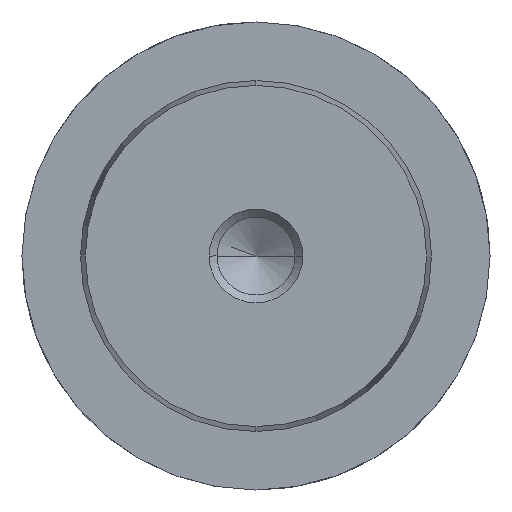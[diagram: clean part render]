
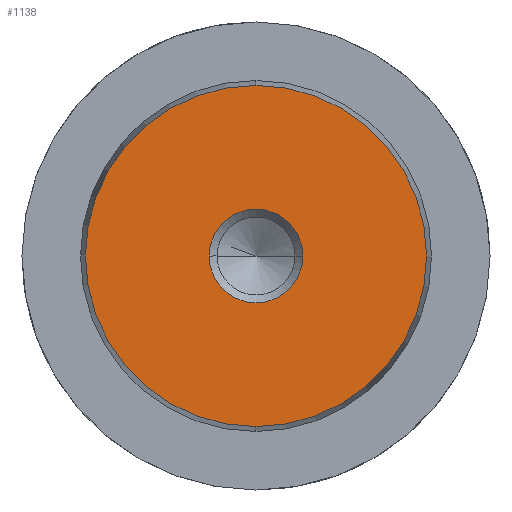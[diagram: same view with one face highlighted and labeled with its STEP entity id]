
A CAD part, left-side view. The second image highlights one B-rep face of the part: STEP entity #1138.
In plain terms, the highlighted planar face has unit normal (-1, 0, 0).
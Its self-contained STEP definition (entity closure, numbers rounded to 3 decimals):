
#1052=CARTESIAN_POINT('Vertex',(0.,0.,-14.578)) ;
#1055=CARTESIAN_POINT('Axis2P3D Location',(0.,0.,0.)) ;
#1059=CARTESIAN_POINT('Vertex',(0.,14.578,0.)) ;
#1062=CARTESIAN_POINT('Axis2P3D Location',(0.,0.,0.)) ;
#1066=CARTESIAN_POINT('Vertex',(0.,0.,14.578)) ;
#1088=CARTESIAN_POINT('Axis2P3D Location',(0.,0.,0.)) ;
#1092=CARTESIAN_POINT('Vertex',(0.,-14.578,0.)) ;
#1095=CARTESIAN_POINT('Axis2P3D Location',(0.,0.,0.)) ;
#1109=CARTESIAN_POINT('Axis2P3D Location',(0.,0.,0.)) ;
#1120=CARTESIAN_POINT('Axis2P3D Location',(0.,0.,0.)) ;
#1124=CARTESIAN_POINT('Vertex',(0.,4.,0.)) ;
#1126=CARTESIAN_POINT('Vertex',(0.,-4.,0.)) ;
#1129=CARTESIAN_POINT('Axis2P3D Location',(0.,0.,0.)) ;
#1056=DIRECTION('Axis2P3D Direction',(1.,-0.,0.)) ;
#1063=DIRECTION('Axis2P3D Direction',(1.,-0.,0.)) ;
#1089=DIRECTION('Axis2P3D Direction',(1.,0.,-0.)) ;
#1096=DIRECTION('Axis2P3D Direction',(1.,0.,-0.)) ;
#1110=DIRECTION('Axis2P3D Direction',(1.,0.,-0.)) ;
#1111=DIRECTION('Axis2P3D XDirection',(-0.,0.,-1.)) ;
#1121=DIRECTION('Axis2P3D Direction',(1.,0.,-0.)) ;
#1130=DIRECTION('Axis2P3D Direction',(1.,0.,-0.)) ;
#1057=AXIS2_PLACEMENT_3D('Circle Axis2P3D',#1055,#1056,$) ;
#1064=AXIS2_PLACEMENT_3D('Circle Axis2P3D',#1062,#1063,$) ;
#1090=AXIS2_PLACEMENT_3D('Circle Axis2P3D',#1088,#1089,$) ;
#1097=AXIS2_PLACEMENT_3D('Circle Axis2P3D',#1095,#1096,$) ;
#1112=AXIS2_PLACEMENT_3D('Plane Axis2P3D',#1109,#1110,#1111) ;
#1122=AXIS2_PLACEMENT_3D('Circle Axis2P3D',#1120,#1121,$) ;
#1131=AXIS2_PLACEMENT_3D('Circle Axis2P3D',#1129,#1130,$) ;
#1115=ORIENTED_EDGE('',*,*,#1061,.F.) ;
#1116=ORIENTED_EDGE('',*,*,#1099,.F.) ;
#1117=ORIENTED_EDGE('',*,*,#1094,.F.) ;
#1118=ORIENTED_EDGE('',*,*,#1068,.F.) ;
#1135=ORIENTED_EDGE('',*,*,#1128,.T.) ;
#1136=ORIENTED_EDGE('',*,*,#1133,.T.) ;
#1137=FACE_BOUND('',#1134,.T.) ;
#1138=ADVANCED_FACE('719-30x315',(#1119,#1137),#1113,.F.) ;
#1058=CIRCLE('generated circle',#1057,14.578) ;
#1065=CIRCLE('generated circle',#1064,14.578) ;
#1091=CIRCLE('generated circle',#1090,14.578) ;
#1098=CIRCLE('generated circle',#1097,14.578) ;
#1123=CIRCLE('generated circle',#1122,4.) ;
#1132=CIRCLE('generated circle',#1131,4.) ;
#1061=EDGE_CURVE('',#1053,#1060,#1058,.T.) ;
#1068=EDGE_CURVE('',#1060,#1067,#1065,.T.) ;
#1094=EDGE_CURVE('',#1067,#1093,#1091,.T.) ;
#1099=EDGE_CURVE('',#1093,#1053,#1098,.T.) ;
#1128=EDGE_CURVE('',#1125,#1127,#1123,.T.) ;
#1133=EDGE_CURVE('',#1127,#1125,#1132,.T.) ;
#1114=EDGE_LOOP('',(#1115,#1116,#1117,#1118)) ;
#1134=EDGE_LOOP('',(#1135,#1136)) ;
#1119=FACE_OUTER_BOUND('',#1114,.T.) ;
#1113=PLANE('Plane',#1112) ;
#1053=VERTEX_POINT('',#1052) ;
#1060=VERTEX_POINT('',#1059) ;
#1067=VERTEX_POINT('',#1066) ;
#1093=VERTEX_POINT('',#1092) ;
#1125=VERTEX_POINT('',#1124) ;
#1127=VERTEX_POINT('',#1126) ;
